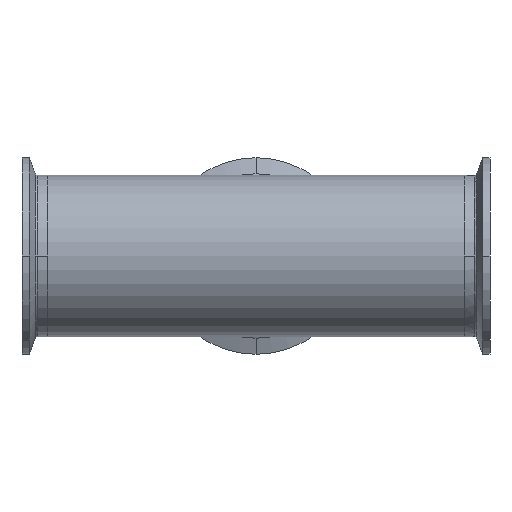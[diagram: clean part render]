
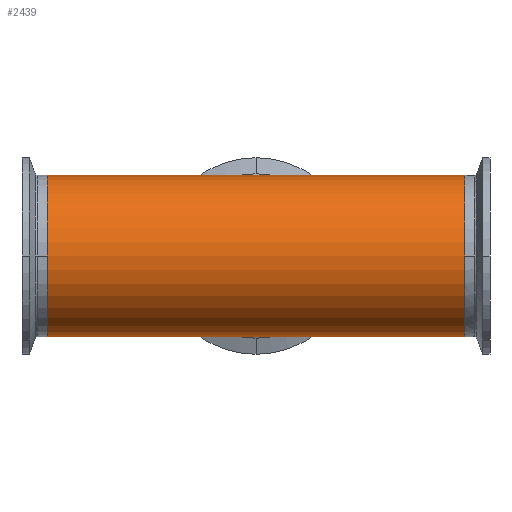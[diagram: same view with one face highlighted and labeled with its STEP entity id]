
A CAD part, front view. The second image highlights one B-rep face of the part: STEP entity #2439.
In plain terms, the highlighted cylindrical face has radius 31.75 mm (diameter 63.5 mm), a partial arc.
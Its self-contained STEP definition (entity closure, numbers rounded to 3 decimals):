
#48 = CARTESIAN_POINT ( 'NONE',  ( 171.903, 0., 31.75 ) ) ;
#78 = CIRCLE ( 'NONE', #1089, 31.75 ) ;
#129 = DIRECTION ( 'NONE',  ( 0., 0., 1. ) ) ;
#157 = CARTESIAN_POINT ( 'NONE',  ( -82.1, 0., -31.75 ) ) ;
#177 = CYLINDRICAL_SURFACE ( 'NONE', #2130, 31.75 ) ;
#335 = VERTEX_POINT ( 'NONE', #3980 ) ;
#415 = VECTOR ( 'NONE', #4525, 1000. ) ;
#587 = VECTOR ( 'NONE', #879, 1000. ) ;
#640 = VERTEX_POINT ( 'NONE', #1214 ) ;
#696 = LINE ( 'NONE', #2728, #587 ) ;
#879 = DIRECTION ( 'NONE',  ( -1., 0., 0. ) ) ;
#906 = DIRECTION ( 'NONE',  ( 1., 0., 0. ) ) ;
#1089 = AXIS2_PLACEMENT_3D ( 'NONE', #3830, #1577, #4216 ) ;
#1209 = CARTESIAN_POINT ( 'NONE',  ( 0., 0., -31.75 ) ) ;
#1214 = CARTESIAN_POINT ( 'NONE',  ( -82.1, 0., 31.75 ) ) ;
#1248 = DIRECTION ( 'NONE',  ( -1., 0., 0. ) ) ;
#1266 = VERTEX_POINT ( 'NONE', #3524 ) ;
#1274 = DIRECTION ( 'NONE',  ( -1., 0., 0. ) ) ;
#1465 = CIRCLE ( 'NONE', #3423, 31.75 ) ;
#1577 = DIRECTION ( 'NONE',  ( -1., 0., 0. ) ) ;
#1625 = EDGE_CURVE ( 'NONE', #3860, #335, #78, .T. ) ;
#1783 = ORIENTED_EDGE ( 'NONE', *, *, #1806, .T. ) ;
#1806 = EDGE_CURVE ( 'NONE', #640, #4610, #1465, .T. ) ;
#1849 = ORIENTED_EDGE ( 'NONE', *, *, #2320, .T. ) ;
#2007 = DIRECTION ( 'NONE',  ( -1., 0., 0. ) ) ;
#2130 = AXIS2_PLACEMENT_3D ( 'NONE', #2384, #1248, #129 ) ;
#2320 = EDGE_CURVE ( 'NONE', #335, #1266, #3403, .T. ) ;
#2384 = CARTESIAN_POINT ( 'NONE',  ( 171.903, 0., 0. ) ) ;
#2390 = LINE ( 'NONE', #3522, #4384 ) ;
#2398 = ORIENTED_EDGE ( 'NONE', *, *, #4581, .T. ) ;
#2439 = ADVANCED_FACE ( 'NONE', ( #3186 ), #177, .T. ) ;
#2582 = CARTESIAN_POINT ( 'NONE',  ( 82.1, 0., -31.75 ) ) ;
#2728 = CARTESIAN_POINT ( 'NONE',  ( 171.903, 0., -31.75 ) ) ;
#2739 = ORIENTED_EDGE ( 'NONE', *, *, #1625, .T. ) ;
#3039 = VERTEX_POINT ( 'NONE', #1209 ) ;
#3159 = CARTESIAN_POINT ( 'NONE',  ( -82.1, 0., 0. ) ) ;
#3186 = FACE_OUTER_BOUND ( 'NONE', #3548, .T. ) ;
#3371 = ORIENTED_EDGE ( 'NONE', *, *, #4573, .F. ) ;
#3403 = LINE ( 'NONE', #48, #415 ) ;
#3423 = AXIS2_PLACEMENT_3D ( 'NONE', #3159, #906, #3528 ) ;
#3495 = LINE ( 'NONE', #4287, #4272 ) ;
#3522 = CARTESIAN_POINT ( 'NONE',  ( 171.903, 0., -31.75 ) ) ;
#3524 = CARTESIAN_POINT ( 'NONE',  ( 0., 0., 31.75 ) ) ;
#3528 = DIRECTION ( 'NONE',  ( 0., 0., 1. ) ) ;
#3548 = EDGE_LOOP ( 'NONE', ( #3652, #2739, #1849, #2398, #1783, #3371 ) ) ;
#3652 = ORIENTED_EDGE ( 'NONE', *, *, #4167, .F. ) ;
#3830 = CARTESIAN_POINT ( 'NONE',  ( 82.1, 0., 0. ) ) ;
#3860 = VERTEX_POINT ( 'NONE', #2582 ) ;
#3980 = CARTESIAN_POINT ( 'NONE',  ( 82.1, 0., 31.75 ) ) ;
#4167 = EDGE_CURVE ( 'NONE', #3860, #3039, #696, .T. ) ;
#4216 = DIRECTION ( 'NONE',  ( 0., 0., 1. ) ) ;
#4272 = VECTOR ( 'NONE', #2007, 1000. ) ;
#4287 = CARTESIAN_POINT ( 'NONE',  ( 171.903, 0., 31.75 ) ) ;
#4384 = VECTOR ( 'NONE', #1274, 1000. ) ;
#4525 = DIRECTION ( 'NONE',  ( -1., 0., 0. ) ) ;
#4573 = EDGE_CURVE ( 'NONE', #3039, #4610, #2390, .T. ) ;
#4581 = EDGE_CURVE ( 'NONE', #1266, #640, #3495, .T. ) ;
#4610 = VERTEX_POINT ( 'NONE', #157 ) ;
